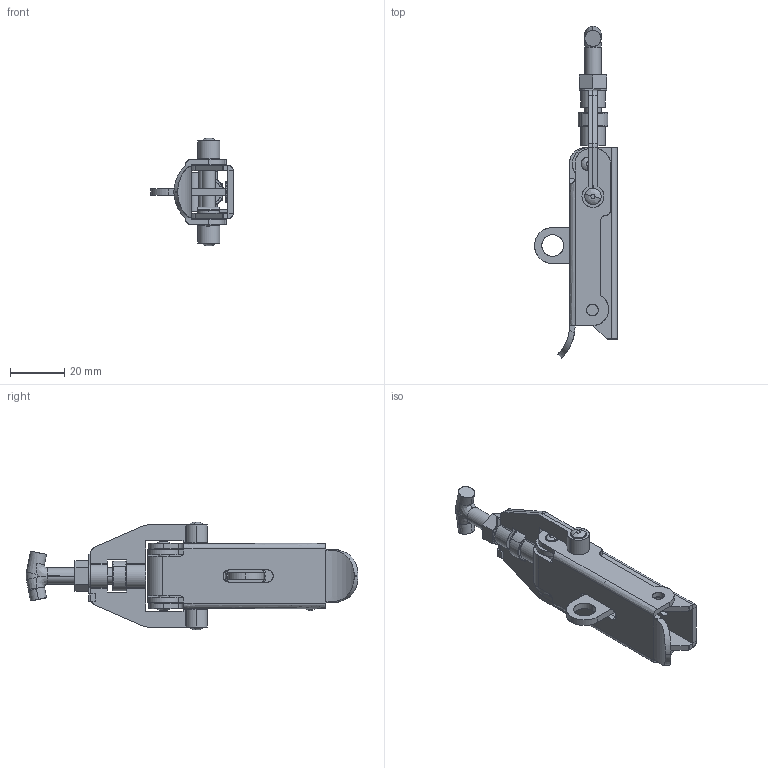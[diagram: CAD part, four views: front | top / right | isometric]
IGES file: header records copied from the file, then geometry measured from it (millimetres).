
Start section: SolidWorks IGES FILE using analytic representation for surfaces
Global section: file name: C:\Documents and Settings\lecoutey\Bureau\GR 88\GR 88.IGS; native system: SolidWorks 2004 by SolidWorks Corporation; preprocessor: Version 5.3; author: lecoutey; date: 050405.090400; units: millimetre
Bounding box: 30.5 x 122.3 x 39.6 mm (x, y, z)
Surface area: 21507.5 mm2 (no closed solid volume)
Topology: 0 solids, 0 shells, 404 faces, 5356 edges, 5325 vertices
Faces by surface type: revolution 223, bspline 181
